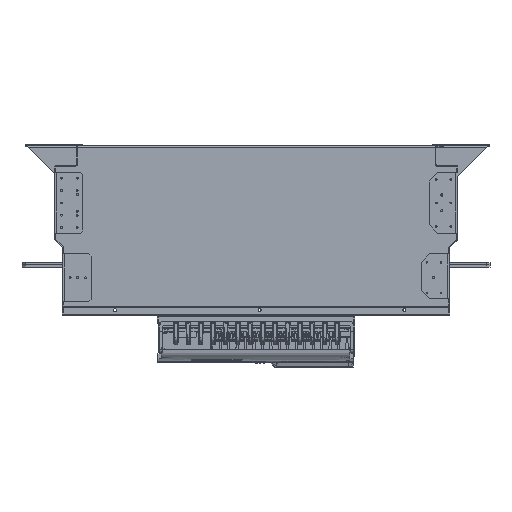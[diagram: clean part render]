
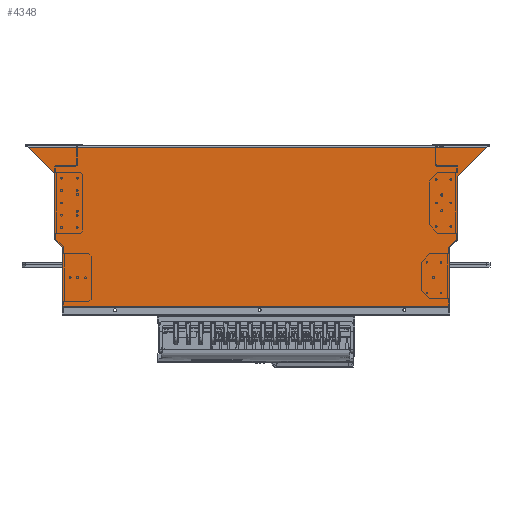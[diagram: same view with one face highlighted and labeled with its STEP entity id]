
A CAD part, left-side view. The second image highlights one B-rep face of the part: STEP entity #4348.
In plain terms, the highlighted planar face has unit normal (-1, 0, 0).
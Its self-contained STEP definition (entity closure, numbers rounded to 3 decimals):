
#4348=ADVANCED_FACE('',(#45396),#45398,.T.);
#45396=FACE_BOUND('',#45397,.T.);
#45397=EDGE_LOOP('',(#100245,#100246,#100247,#100248,#100249,#100250,#100251,#100252,
#100253,#100254,#100255,#100256,#100257,#100258));
#45398=PLANE('',#45399);
#45399=AXIS2_PLACEMENT_3D('',#45400,#45401,#45402);
#45400=CARTESIAN_POINT('',(0.,-820.,0.));
#45401=DIRECTION('',(-1.,0.,0.));
#45402=DIRECTION('',(0.,-1.,0.));
#100245=ORIENTED_EDGE('',*,*,#131295,.T.);
#100246=ORIENTED_EDGE('',*,*,#131296,.T.);
#100247=ORIENTED_EDGE('',*,*,#131297,.T.);
#100248=ORIENTED_EDGE('',*,*,#131298,.T.);
#100249=ORIENTED_EDGE('',*,*,#131299,.F.);
#100250=ORIENTED_EDGE('',*,*,#131300,.T.);
#100251=ORIENTED_EDGE('',*,*,#131301,.T.);
#100252=ORIENTED_EDGE('',*,*,#131302,.F.);
#100253=ORIENTED_EDGE('',*,*,#131303,.F.);
#100254=ORIENTED_EDGE('',*,*,#131304,.F.);
#100255=ORIENTED_EDGE('',*,*,#131305,.T.);
#100256=ORIENTED_EDGE('',*,*,#131306,.F.);
#100257=ORIENTED_EDGE('',*,*,#131307,.F.);
#100258=ORIENTED_EDGE('',*,*,#131308,.T.);
#131295=EDGE_CURVE('',#144677,#144678,#144679,.T.);
#131296=EDGE_CURVE('',#144678,#144680,#144681,.T.);
#131297=EDGE_CURVE('',#144680,#144682,#144683,.T.);
#131298=EDGE_CURVE('',#144682,#144684,#144685,.T.);
#131299=EDGE_CURVE('',#144686,#144684,#144687,.T.);
#131300=EDGE_CURVE('',#144686,#144688,#144689,.T.);
#131301=EDGE_CURVE('',#144688,#144690,#144691,.T.);
#131302=EDGE_CURVE('',#144692,#144690,#144693,.T.);
#131303=EDGE_CURVE('',#144694,#144692,#144695,.T.);
#131304=EDGE_CURVE('',#144696,#144694,#144697,.T.);
#131305=EDGE_CURVE('',#144696,#144698,#144699,.T.);
#131306=EDGE_CURVE('',#144700,#144698,#144701,.T.);
#131307=EDGE_CURVE('',#144702,#144700,#144703,.T.);
#131308=EDGE_CURVE('',#144702,#144677,#144704,.T.);
#144677=VERTEX_POINT('',#166194);
#144678=VERTEX_POINT('',#166195);
#144679=LINE('',#166196,#166197);
#144680=VERTEX_POINT('',#166199);
#144681=LINE('',#166200,#166201);
#144682=VERTEX_POINT('',#166203);
#144683=LINE('',#166204,#166205);
#144684=VERTEX_POINT('',#166207);
#144685=LINE('',#166208,#166209);
#144686=VERTEX_POINT('',#166211);
#144687=LINE('',#166212,#166213);
#144688=VERTEX_POINT('',#166215);
#144689=LINE('',#166216,#166217);
#144690=VERTEX_POINT('',#166219);
#144691=LINE('',#166220,#166221);
#144692=VERTEX_POINT('',#166223);
#144693=LINE('',#166224,#166225);
#144694=VERTEX_POINT('',#166227);
#144695=LINE('',#166228,#166229);
#144696=VERTEX_POINT('',#166231);
#144697=LINE('',#166232,#166233);
#144698=VERTEX_POINT('',#166235);
#144699=LINE('',#166236,#166237);
#144700=VERTEX_POINT('',#166239);
#144701=LINE('',#166240,#166241);
#144702=VERTEX_POINT('',#166243);
#144703=LINE('',#166244,#166245);
#144704=LINE('',#166247,#166248);
#166194=CARTESIAN_POINT('',(0.,-71.561,287.));
#166195=CARTESIAN_POINT('',(0.,-69.561,287.));
#166196=CARTESIAN_POINT('',(0.,-71.561,287.));
#166197=VECTOR('',#166198,1.);
#166198=DIRECTION('',(0.,1.,0.));
#166199=CARTESIAN_POINT('',(0.,-69.561,181.561));
#166200=CARTESIAN_POINT('',(0.,-69.561,287.));
#166201=VECTOR('',#166202,1.);
#166202=DIRECTION('',(0.,0.,-1.));
#166203=CARTESIAN_POINT('',(0.,-55.,167.));
#166204=CARTESIAN_POINT('',(0.,-69.561,181.561));
#166205=VECTOR('',#166206,1.);
#166206=DIRECTION('',(0.,0.707,-0.707));
#166207=CARTESIAN_POINT('',(0.,-55.,55.));
#166208=CARTESIAN_POINT('',(0.,-55.,167.));
#166209=VECTOR('',#166210,1.);
#166210=DIRECTION('',(0.,0.,-1.));
#166211=CARTESIAN_POINT('',(0.,-3.,3.));
#166212=CARTESIAN_POINT('',(0.,-3.,3.));
#166213=VECTOR('',#166214,1.);
#166214=DIRECTION('',(0.,-0.707,0.707));
#166215=CARTESIAN_POINT('',(0.,-817.,3.));
#166216=CARTESIAN_POINT('',(0.,-3.,3.));
#166217=VECTOR('',#166218,1.);
#166218=DIRECTION('',(0.,-1.,0.));
#166219=CARTESIAN_POINT('',(0.,-770.,50.));
#166220=CARTESIAN_POINT('',(0.,-817.,3.));
#166221=VECTOR('',#166222,1.);
#166222=DIRECTION('',(0.,0.707,0.707));
#166223=CARTESIAN_POINT('',(0.,-770.,167.));
#166224=CARTESIAN_POINT('',(0.,-770.,167.));
#166225=VECTOR('',#166226,1.);
#166226=DIRECTION('',(0.,0.,-1.));
#166227=CARTESIAN_POINT('',(0.,-755.439,181.561));
#166228=CARTESIAN_POINT('',(0.,-755.439,181.561));
#166229=VECTOR('',#166230,1.);
#166230=DIRECTION('',(0.,-0.707,-0.707));
#166231=CARTESIAN_POINT('',(0.,-755.439,287.));
#166232=CARTESIAN_POINT('',(0.,-755.439,287.));
#166233=VECTOR('',#166234,1.);
#166234=DIRECTION('',(0.,0.,-1.));
#166235=CARTESIAN_POINT('',(0.,-753.439,287.));
#166236=CARTESIAN_POINT('',(0.,-755.439,287.));
#166237=VECTOR('',#166238,1.);
#166238=DIRECTION('',(0.,1.,0.));
#166239=CARTESIAN_POINT('',(0.,-753.439,285.4));
#166240=CARTESIAN_POINT('',(0.,-753.439,285.4));
#166241=VECTOR('',#166242,1.);
#166242=DIRECTION('',(0.,0.,1.));
#166243=CARTESIAN_POINT('',(0.,-71.561,285.4));
#166244=CARTESIAN_POINT('',(0.,-71.561,285.4));
#166245=VECTOR('',#166246,1.);
#166246=DIRECTION('',(0.,-1.,0.));
#166247=CARTESIAN_POINT('',(0.,-71.561,285.4));
#166248=VECTOR('',#166249,1.);
#166249=DIRECTION('',(0.,0.,1.));
